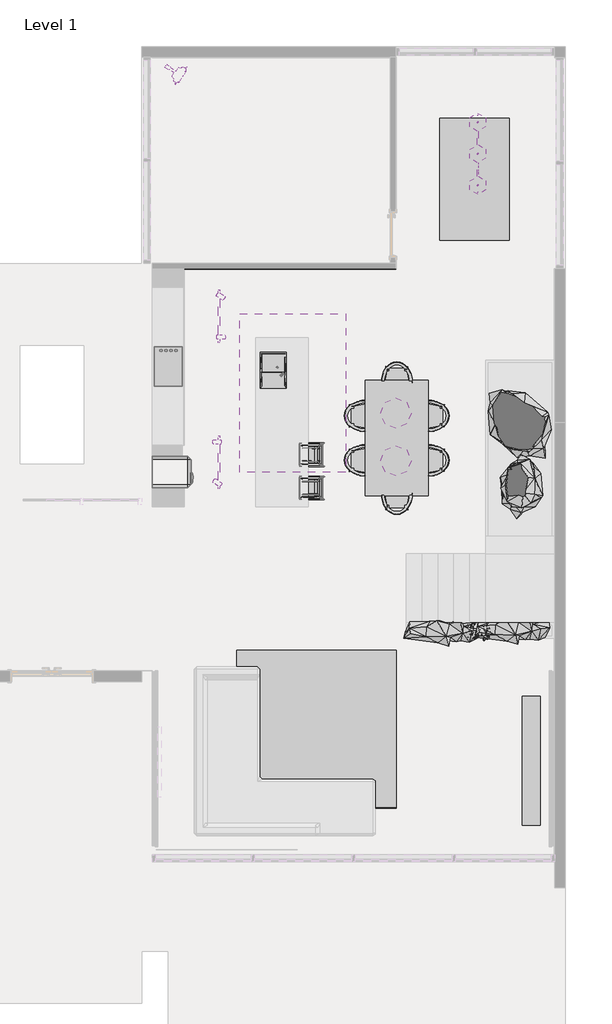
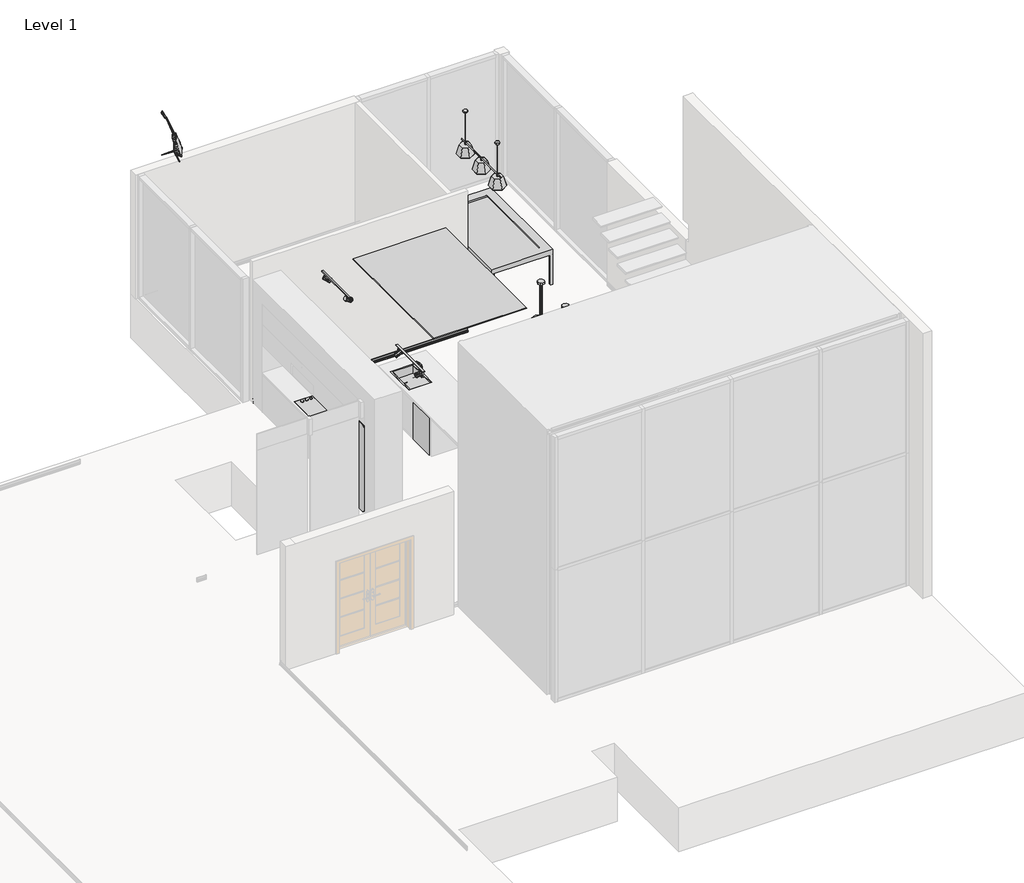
# One storey, part 6 of 6: 34 geographic elements, 1 proxy.
"""IFC4 building model written with IfcOpenShell, lengths in millimetres."""

from ifc_helpers import new_model, si_unit, frame, origin, place, context, project, spatial, polyline, circle_curve, ellipse_curve, transform, mapped, element, save
from ifc_brep_helpers import plane_surface, cylinder_surface, revolved_surface, advanced_brep
from components import geographic_element_bfdd2f6c, geographic_element_9e3005e0, geographic_element_9168ae05, geographic_element_90b7c5d2, geographic_element_7dfcdec6, geographic_element_61ae229a, geographic_element_0d0d3237, enscape_assetdefinition_ceiling_lamp_004_enscape_05cd2c64, enscape_assetdefinition_chair_012_enscape_assetdefinition_f9da785b, enscape_assetdefinition_chair_012_enscape_assetdefinition_a687204f, enscape_assetdefinition_cooktop_001_enscape_assetdefinition_00335e73, enscape_assetdefinition_dishwasher_001_enscape_95202793, enscape_assetdefinition_faucet_003_kitchen_enscape_26e6365f, enscape_assetdefinition_high_stool_001_enscape_ac28e651, enscape_assetdefinition_high_stool_001_enscape_cfc41f77, enscape_assetdefinition_pendant_lamp_004_enscape_82bf42aa, enscape_assetdefinition_pendant_lamp_007_enscape_ddbe99dc, enscape_assetdefinition_refrigerator_005_enscape_24c0ebcb, enscape_assetdefinition_rug_008_enscape_assetdefinition_rug_9687f430, enscape_assetdefinition_rug_019_enscape_assetdefinition_rug_03579923, enscape_assetdefinition_sideboard_030_enscape_9a6f2bb5, enscape_assetdefinition_sink_001_enscape_assetdefinition_419a9225, enscape_assetdefinition_table_008_enscape_assetdefinition_f2bec403

model = new_model("IFC4")

# Units and contexts
model_context = context("Model", 3, world=origin())
ifc_project = project(units=[si_unit("LENGTHUNIT", "METRE", prefix="MILLI")], contexts=[model_context])

# Site, building, storey
site = spatial("IfcSite", under=ifc_project)
building = spatial("IfcBuilding", under=site)
storey = spatial("IfcBuildingStorey", under=building, Name="Level 1", Elevation=1000.0)

# Proxy
placement = place(None, origin())
element("IfcBuildingElementProxy", 1, Name="Brick Soldier Course", ObjectType="Brick Soldier Course", at=placement, inside=storey, context=model_context, shape_type="AdvancedBrep", body=[
    advanced_brep(
    [(16943.1337784, 13066.9206658, 1100.0), (16943.1337784, 13066.9206658, 1000.0), (16943.1337784, 13053.7928378, 1000.0), (16943.1337784, 13059.2884138, 1016.7363778), (16943.1337784, 13060.6531616, 1017.9313406), (16943.1337784, 13061.9206658, 1017.9313406), (16943.1337784, 13061.9206658, 1025.0), (16943.1337784, 13060.8836184, 1025.0), (16943.1337784, 13059.4323924, 1026.451226), (16943.1337784, 13059.4323924, 1048.5), (16943.1337784, 13060.9323924, 1050.0), (16943.1337784, 13064.4323924, 1050.0), (16943.1337784, 13064.4323924, 1090.0), (16943.1337784, 13063.3572238, 1090.0), (16943.1337784, 13061.9206658, 1091.4365579), (16943.1337784, 13061.9206658, 1095.9967275), (16943.1337784, 13065.9239384, 1100.0), (21543.1337784, 13066.9206658, 1100.0), (21544.1305058, 13065.9239384, 1100.0), (21548.1337784, 13061.9206658, 1095.9967275), (21548.1337784, 13061.9206658, 1091.4365579), (21546.6972204, 13063.3572238, 1090.0), (21545.6220518, 13064.4323924, 1090.0), (21545.6220518, 13064.4323924, 1050.0), (21549.1220518, 13060.9323924, 1050.0), (21550.6220518, 13059.4323924, 1048.5), (21550.6220518, 13059.4323924, 1026.451226), (21549.1708258, 13060.8836184, 1025.0), (21548.1337784, 13061.9206658, 1025.0), (21548.1337784, 13061.9206658, 1017.9313406), (21549.4012827, 13060.6531616, 1017.9313406), (21550.7660304, 13059.2884138, 1016.7363778), (21556.2616065, 13053.7928378, 1000.0), (21543.1337784, 13066.9206658, 1000.0)],
    [
        (0, 1),
        (1, 2),
        (2, 3, circle_curve(frame((16943.1337784, 13011.7757488, 1023.0672348), z_axis=(1.0, 0.0, 0.0), x_axis=(0.0, -1.0, 0.0)), 47.932589)),
        (3, 4, circle_curve(frame((16943.1337784, 13060.6531616, 1016.554531), z_axis=(-1.0, 0.0, 0.0), x_axis=(0.0, -1.0, 0.0)), 1.3768096)),
        (4, 5),
        (5, 6),
        (6, 7),
        (7, 8, circle_curve(frame((16943.1337784, 13060.8836184, 1026.451226), z_axis=(-1.0, 0.0, 0.0), x_axis=(0.0, -1.0, 0.0)), 1.451226)),
        (8, 9),
        (9, 10, circle_curve(frame((16943.1337784, 13060.9323924, 1048.5), z_axis=(-1.0, 0.0, 0.0), x_axis=(0.0, -1.0, 0.0)), 1.5)),
        (10, 11),
        (11, 12),
        (12, 13),
        (13, 14, circle_curve(frame((16943.1337784, 13063.3572238, 1091.4365579), z_axis=(-1.0, 0.0, 0.0), x_axis=(0.0, -1.0, 0.0)), 1.4365579)),
        (14, 15),
        (15, 16, circle_curve(frame((16943.1337784, 13065.9239384, 1095.9967275), z_axis=(-1.0, 0.0, 0.0), x_axis=(0.0, -1.0, 0.0)), 4.0032725)),
        (16, 0),
        (17, 18),
        (18, 19, ellipse_curve(frame((21544.1305058, 13065.9239384, 1095.9967275), z_axis=(0.707106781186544, 0.7071067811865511, 0.0), x_axis=(-0.7071067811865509, 0.7071067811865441, 0.0)), 5.6614823, 4.0032725)),
        (19, 20),
        (20, 21, ellipse_curve(frame((21546.6972204, 13063.3572238, 1091.4365579), z_axis=(0.707106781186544, 0.7071067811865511, 0.0), x_axis=(-0.7071067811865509, 0.7071067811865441, 0.0)), 2.0315997, 1.4365579)),
        (21, 22),
        (22, 23),
        (23, 24),
        (24, 25, ellipse_curve(frame((21549.1220518, 13060.9323924, 1048.5), z_axis=(0.707106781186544, 0.7071067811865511, 0.0), x_axis=(-0.7071067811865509, 0.7071067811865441, 0.0)), 2.1213203, 1.5)),
        (25, 26),
        (26, 27, ellipse_curve(frame((21549.1708258, 13060.8836184, 1026.451226), z_axis=(0.707106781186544, 0.7071067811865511, 0.0), x_axis=(-0.7071067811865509, 0.7071067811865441, 0.0)), 2.0523435, 1.451226)),
        (27, 28),
        (28, 29),
        (29, 30),
        (30, 31, ellipse_curve(frame((21549.4012827, 13060.6531616, 1016.554531), z_axis=(0.707106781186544, 0.7071067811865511, 0.0), x_axis=(-0.7071067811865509, 0.7071067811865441, 0.0)), 1.9471028, 1.3768096)),
        (31, 32, ellipse_curve(frame((21598.2786954, 13011.7757488, 1023.0672348), z_axis=(-0.707106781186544, -0.7071067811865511, 0.0), x_axis=(0.7071067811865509, -0.7071067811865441, 0.0)), 67.7869174, 47.932589)),
        (32, 33),
        (33, 17),
        (0, 17),
        (33, 1),
        (32, 2),
        (31, 3),
        (30, 4),
        (29, 5),
        (28, 6),
        (27, 7),
        (26, 8),
        (25, 9),
        (24, 10),
        (23, 11),
        (22, 12),
        (21, 13),
        (20, 14),
        (19, 15),
        (18, 16),
    ],
    [
        plane_surface(frame((16943.1337784, 13066.9206658, 899.9950328), z_axis=(-1.0, 0.0, 0.0), x_axis=(0.0, 1.0, 0.0))),
        plane_surface(frame((21543.1337784, 13066.9206658, 695.2), z_axis=(0.707106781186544, 0.7071067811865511, 0.0), x_axis=(-0.7071067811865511, 0.707106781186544, 0.0))),
        plane_surface(frame((16943.1337784, 13066.9206658, 1100.0), z_axis=(0.0, 1.0, 0.0), x_axis=(1.0, 0.0, 0.0))),
        plane_surface(frame((16943.1337784, 13066.9206658, 1000.0), z_axis=(0.0, 0.0, -1.0), x_axis=(1.0, 0.0, 0.0))),
        revolved_surface(polyline([(21646.211284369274, 12963.8431598, 1023.0672348), (16943.1337784, 12963.8431598, 1023.0672348)]), (16943.1337784, 13011.7757488, 1023.0672348), (1.0, 0.0, 0.0)),
        cylinder_surface(frame((16943.1337784, 13060.6531616, 1016.554531), z_axis=(-1.0, 0.0, 0.0), x_axis=(0.0, -1.0, 0.0)), 1.3768096),
        plane_surface(frame((16943.1337784, 13060.6531616, 1017.9313406), z_axis=(0.0, 0.0, 1.0), x_axis=(1.0, 0.0, 0.0))),
        plane_surface(frame((16943.1337784, 13061.9206658, 1017.9313406), z_axis=(0.0, -1.0, 0.0), x_axis=(1.0, 0.0, 0.0))),
        plane_surface(frame((16943.1337784, 13061.9206658, 1025.0), z_axis=(0.0, 0.0, -1.0), x_axis=(1.0, 0.0, 0.0))),
        cylinder_surface(frame((16943.1337784, 13060.8836184, 1026.451226), z_axis=(-1.0, 0.0, 0.0), x_axis=(0.0, -1.0, 0.0)), 1.451226),
        plane_surface(frame((16943.1337784, 13059.4323924, 1026.451226), z_axis=(0.0, -1.0, 0.0), x_axis=(1.0, 0.0, 0.0))),
        cylinder_surface(frame((16943.1337784, 13060.9323924, 1048.5), z_axis=(-1.0, 0.0, 0.0), x_axis=(0.0, -1.0, 0.0)), 1.5),
        plane_surface(frame((16943.1337784, 13060.9323924, 1050.0), z_axis=(0.0, 0.0, 1.0), x_axis=(1.0, 0.0, 0.0))),
        plane_surface(frame((16943.1337784, 13064.4323924, 1050.0), z_axis=(0.0, -1.0, 0.0), x_axis=(1.0, 0.0, 0.0))),
        plane_surface(frame((16943.1337784, 13064.4323924, 1090.0), z_axis=(0.0, 0.0, -1.0), x_axis=(1.0, 0.0, 0.0))),
        cylinder_surface(frame((16943.1337784, 13063.3572238, 1091.4365579), z_axis=(-1.0, 0.0, 0.0), x_axis=(0.0, -1.0, 0.0)), 1.4365579),
        plane_surface(frame((16943.1337784, 13061.9206658, 1091.4365579), z_axis=(0.0, -1.0, 0.0), x_axis=(1.0, 0.0, 0.0))),
        cylinder_surface(frame((16943.1337784, 13065.9239384, 1095.9967275), z_axis=(-1.0, 0.0, 0.0), x_axis=(0.0, -1.0, 0.0)), 4.0032725),
        plane_surface(frame((16943.1337784, 13065.9239384, 1100.0), z_axis=(0.0, 0.0, 1.0), x_axis=(1.0, 0.0, 0.0))),
    ],
    [
        (0, [[1, 2, 3, 4, 5, 6, 7, 8, 9, 10, 11, 12, 13, 14, 15, 16, 17]]),
        (1, [[18, 19, 20, 21, 22, 23, 24, 25, 26, 27, 28, 29, 30, 31, 32, 33, 34]]),
        (2, [[-1, 35, -34, 36]]),
        (3, [[-2, -36, -33, 37]]),
        (4, [[-3, -37, -32, 38]]),
        (5, [[-4, -38, -31, 39]]),
        (6, [[-5, -39, -30, 40]]),
        (7, [[-6, -40, -29, 41]]),
        (8, [[-7, -41, -28, 42]]),
        (9, [[-8, -42, -27, 43]]),
        (10, [[-9, -43, -26, 44]]),
        (11, [[-10, -44, -25, 45]]),
        (12, [[-11, -45, -24, 46]]),
        (13, [[-12, -46, -23, 47]]),
        (14, [[-13, -47, -22, 48]]),
        (15, [[-14, -48, -21, 49]]),
        (16, [[-15, -49, -20, 50]]),
        (17, [[-16, -50, -19, 51]]),
        (18, [[-17, -51, -18, -35]]),
    ],
),
])

# Geographic elements
geographic_element_shape = geographic_element_bfdd2f6c(model_context)
element("IfcGeographicElement", 2, ObjectType="Enscape AssetDefinition - Billiard Table 002 : Enscape AssetDefinition - Billiard Table 002", at=placement, inside=storey, context=model_context, shape_type="MappedRepresentation", body=[
    mapped(geographic_element_shape, transform((23094.052386, 14666.9206658, 1000.0), x_axis=(0.0, 1.0, 0.0), y_axis=(-1.0, 0.0, 0.0), z_axis=(0.0, 0.0, 1.0))),
])
geographic_element_2_shape = geographic_element_9e3005e0(model_context)
element("IfcGeographicElement", 3, ObjectType="Enscape AssetDefinition - Potted Plant 250 Snake Plant : Enscape AssetDefinition - Potted Plant 250 Snake Plant", at=placement, inside=storey, context=model_context, shape_type="MappedRepresentation", body=[
    mapped(geographic_element_2_shape, transform((23713.1337784, 6247.8321125, 1140.0), x_axis=(0.0, -1.0, 0.0), y_axis=(1.0, 0.0, 0.0), z_axis=(0.0, 0.0, 1.0))),
])
element("IfcGeographicElement", 4, ObjectType="Enscape AssetDefinition - Potted Plant 250 Snake Plant : Enscape AssetDefinition - Potted Plant 250 Snake Plant", at=placement, inside=storey, context=model_context, shape_type="MappedRepresentation", body=[
    mapped(geographic_element_2_shape, transform((22408.1337784, 6212.8321125, 1140.0), x_axis=(0.0, -1.0, 0.0), y_axis=(1.0, 0.0, 0.0), z_axis=(0.0, 0.0, 1.0))),
])
geographic_element_3_shape = geographic_element_9168ae05(model_context)
element("IfcGeographicElement", 5, ObjectType="Enscape AssetDefinition - Potted Plant 247 Snake Plant : Enscape AssetDefinition - Potted Plant 247 Snake Plant", at=placement, inside=storey, context=model_context, shape_type="MappedRepresentation", body=[
    mapped(geographic_element_3_shape, transform((23212.2914143, 6258.4455794, 1140.0), x_axis=(1.0, 0.0, 0.0), y_axis=(0.0, 1.0, 0.0), z_axis=(0.0, 0.0, 1.0))),
])
element("IfcGeographicElement", 6, ObjectType="Enscape AssetDefinition - Potted Plant 247 Snake Plant : Enscape AssetDefinition - Potted Plant 247 Snake Plant", at=placement, inside=storey, context=model_context, shape_type="MappedRepresentation", body=[
    mapped(geographic_element_3_shape, transform((22943.1337784, 6189.5672652, 1140.0), x_axis=(1.0, 0.0, 0.0), y_axis=(0.0, 1.0, 0.0), z_axis=(0.0, 0.0, 1.0))),
])
element("IfcGeographicElement", 7, ObjectType="Enscape AssetDefinition - Potted Plant 247 Snake Plant : Enscape AssetDefinition - Potted Plant 247 Snake Plant", at=placement, inside=storey, context=model_context, shape_type="MappedRepresentation", body=[
    mapped(geographic_element_3_shape, transform((23065.8445874, 6167.2496243, 1140.0), x_axis=(1.0, 0.0, 0.0), y_axis=(0.0, 1.0, 0.0), z_axis=(0.0, 0.0, 1.0))),
])
element("IfcGeographicElement", 8, ObjectType="Enscape AssetDefinition - Potted Plant 247 Snake Plant : Enscape AssetDefinition - Potted Plant 247 Snake Plant", at=placement, inside=storey, context=model_context, shape_type="MappedRepresentation", body=[
    mapped(geographic_element_3_shape, transform((22966.7965398, 6302.4533857, 1140.0), x_axis=(1.0, 0.0, 0.0), y_axis=(0.0, 1.0, 0.0), z_axis=(0.0, 0.0, 1.0))),
])
element("IfcGeographicElement", 9, ObjectType="Enscape AssetDefinition - Potted Plant 247 Snake Plant : Enscape AssetDefinition - Potted Plant 247 Snake Plant", at=placement, inside=storey, context=model_context, shape_type="MappedRepresentation", body=[
    mapped(geographic_element_3_shape, transform((23272.0548418, 6301.09339, 1140.0), x_axis=(1.0, 0.0, 0.0), y_axis=(0.0, 1.0, 0.0), z_axis=(0.0, 0.0, 1.0))),
])
geographic_element_4_shape = geographic_element_90b7c5d2(model_context)
element("IfcGeographicElement", 10, ObjectType="Enscape AssetDefinition - Potted Plant 247 Snake Plant : Enscape AssetDefinition - Potted Plant 247 Snake Plant 2", at=placement, inside=storey, context=model_context, shape_type="MappedRepresentation", body=[
    mapped(geographic_element_4_shape, transform((23253.1337784, 6154.720421, 1140.0), x_axis=(1.0, 0.0, 0.0), y_axis=(0.0, 1.0, 0.0), z_axis=(0.0, 0.0, 1.0))),
])
geographic_element_5_shape = geographic_element_7dfcdec6(model_context)
element("IfcGeographicElement", 11, ObjectType="Enscape AssetDefinition - Potted Plant 217 Dumb Cane : Enscape AssetDefinition - Potted Plant 217 Dumb Cane 2", at=placement, inside=storey, context=model_context, shape_type="MappedRepresentation", body=[
    mapped(geographic_element_5_shape, transform((23856.9536171, 9024.0661412, 1140.0), x_axis=(1.0, 0.0, 0.0), y_axis=(0.0, 1.0, 0.0), z_axis=(0.0, 0.0, 1.0))),
])
geographic_element_6_shape = geographic_element_61ae229a(model_context)
element("IfcGeographicElement", 12, ObjectType="Enscape AssetDefinition - Potted Plant 217 Dumb Cane : Enscape AssetDefinition - Potted Plant 217 Dumb Cane 3", at=placement, inside=storey, context=model_context, shape_type="MappedRepresentation", body=[
    mapped(geographic_element_6_shape, transform((23751.7140303, 10154.1805742, 1140.0), x_axis=(0.707106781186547, 0.7071067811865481, 0.0), y_axis=(-0.7071067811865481, 0.707106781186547, 0.0), z_axis=(0.0, 0.0, 1.0))),
])
geographic_element_7_shape = geographic_element_0d0d3237(model_context)
element("IfcGeographicElement", 13, ObjectType="Enscape AssetDefinition - Instrument 016 Guitar : Enscape AssetDefinition - Instrument 016 Guitar", at=placement, inside=storey, context=model_context, shape_type="MappedRepresentation", body=[
    mapped(geographic_element_7_shape, transform((17390.7159822, 16774.461005, 4200.0), x_axis=(0.5375436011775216, 0.843235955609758, 0.0), y_axis=(-0.843235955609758, 0.5375436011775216, 0.0), z_axis=(0.0, 0.0, 1.0))),
])
enscape_assetdefinition_ceiling_lamp_004_enscape_shape = enscape_assetdefinition_ceiling_lamp_004_enscape_05cd2c64(model_context)
element("IfcGeographicElement", 14, ObjectType="Enscape AssetDefinition - Ceiling Lamp 004 : Enscape AssetDefinition - Ceiling Lamp 004", at=placement, inside=storey, context=model_context, shape_type="MappedRepresentation", body=[
    mapped(enscape_assetdefinition_ceiling_lamp_004_enscape_shape, transform((18203.1337784, 9406.4728324, 3800.0), x_axis=(0.0, 1.0, 0.0), y_axis=(-1.0, 0.0, 0.0), z_axis=(0.0, 0.0, 1.0))),
])
element("IfcGeographicElement", 15, ObjectType="Enscape AssetDefinition - Ceiling Lamp 004 : Enscape AssetDefinition - Ceiling Lamp 004", at=placement, inside=storey, context=model_context, shape_type="MappedRepresentation", body=[
    mapped(enscape_assetdefinition_ceiling_lamp_004_enscape_shape, transform((18203.1337784, 12166.4728324, 3800.0), x_axis=(0.0, -1.0, 0.0), y_axis=(1.0, 0.0, 0.0), z_axis=(0.0, 0.0, 1.0))),
])
enscape_assetdefinition_chair_012_enscape_assetdefinition_shape = enscape_assetdefinition_chair_012_enscape_assetdefinition_f9da785b(model_context)
element("IfcGeographicElement", 16, ObjectType="Enscape AssetDefinition - Chair 012 : Enscape AssetDefinition - Chair 012", at=placement, inside=storey, context=model_context, shape_type="MappedRepresentation", body=[
    mapped(enscape_assetdefinition_chair_012_enscape_assetdefinition_shape, transform((21563.1337784, 10958.9947045, 1000.0), x_axis=(1.0, 0.0, 0.0), y_axis=(0.0, 1.0, 0.0), z_axis=(0.0, 0.0, 1.0))),
])
element("IfcGeographicElement", 17, ObjectType="Enscape AssetDefinition - Chair 012 : Enscape AssetDefinition - Chair 012", at=placement, inside=storey, context=model_context, shape_type="MappedRepresentation", body=[
    mapped(enscape_assetdefinition_chair_012_enscape_assetdefinition_shape, transform((22203.1337784, 9446.9206658, 1000.0), x_axis=(0.0, -1.0, 0.0), y_axis=(1.0, 0.0, 0.0), z_axis=(0.0, 0.0, 1.0))),
])
element("IfcGeographicElement", 18, ObjectType="Enscape AssetDefinition - Chair 012 : Enscape AssetDefinition - Chair 012", at=placement, inside=storey, context=model_context, shape_type="MappedRepresentation", body=[
    mapped(enscape_assetdefinition_chair_012_enscape_assetdefinition_shape, transform((20923.1337784, 10286.9206658, 1000.0), x_axis=(0.0, 1.0, 0.0), y_axis=(-1.0, 0.0, 0.0), z_axis=(0.0, 0.0, 1.0))),
])
enscape_assetdefinition_chair_012_enscape_assetdefinition_2_shape = enscape_assetdefinition_chair_012_enscape_assetdefinition_a687204f(model_context)
element("IfcGeographicElement", 19, ObjectType="Enscape AssetDefinition - Chair 012 : Enscape AssetDefinition - Chair 012", at=placement, inside=storey, context=model_context, shape_type="MappedRepresentation", body=[
    mapped(enscape_assetdefinition_chair_012_enscape_assetdefinition_2_shape, transform((21563.1337784, 8774.8466271, 1000.0), x_axis=(1.0, 0.0, 0.0), y_axis=(0.0, 1.0, 0.0), z_axis=(0.0, 0.0, 1.0))),
])
element("IfcGeographicElement", 20, ObjectType="Enscape AssetDefinition - Chair 012 : Enscape AssetDefinition - Chair 012", at=placement, inside=storey, context=model_context, shape_type="MappedRepresentation", body=[
    mapped(enscape_assetdefinition_chair_012_enscape_assetdefinition_2_shape, transform((22203.1337784, 10286.9206658, 1000.0), x_axis=(0.0, 1.0, 0.0), y_axis=(-1.0, 0.0, 0.0), z_axis=(0.0, 0.0, 1.0))),
])
element("IfcGeographicElement", 21, ObjectType="Enscape AssetDefinition - Chair 012 : Enscape AssetDefinition - Chair 012", at=placement, inside=storey, context=model_context, shape_type="MappedRepresentation", body=[
    mapped(enscape_assetdefinition_chair_012_enscape_assetdefinition_2_shape, transform((20923.1337784, 9446.9206658, 1000.0), x_axis=(0.0, -1.0, 0.0), y_axis=(1.0, 0.0, 0.0), z_axis=(0.0, 0.0, 1.0))),
])
enscape_assetdefinition_cooktop_001_enscape_assetdefinition_shape = enscape_assetdefinition_cooktop_001_enscape_assetdefinition_00335e73(model_context)
element("IfcGeographicElement", 22, ObjectType="Enscape AssetDefinition - Cooktop 001 : Enscape AssetDefinition - Cooktop 001", at=placement, inside=storey, context=model_context, shape_type="MappedRepresentation", body=[
    mapped(enscape_assetdefinition_cooktop_001_enscape_assetdefinition_shape, transform((17243.5173578, 11222.1706699, 1900.0), x_axis=(0.0, 1.0, 0.0), y_axis=(-1.0, 0.0, 0.0), z_axis=(0.0, 0.0, 1.0))),
])
enscape_assetdefinition_dishwasher_001_enscape_shape = enscape_assetdefinition_dishwasher_001_enscape_95202793(model_context)
element("IfcGeographicElement", 23, ObjectType="Enscape AssetDefinition - Dishwasher 001 : Enscape AssetDefinition - Dishwasher 001", at=placement, inside=storey, context=model_context, shape_type="MappedRepresentation", body=[
    mapped(enscape_assetdefinition_dishwasher_001_enscape_shape, transform((19218.1337784, 10566.9206658, 1000.0), x_axis=(1.0, 0.0, 0.0), y_axis=(0.0, 1.0, 0.0), z_axis=(0.0, 0.0, 1.0))),
])
enscape_assetdefinition_faucet_003_kitchen_enscape_shape = enscape_assetdefinition_faucet_003_kitchen_enscape_26e6365f(model_context)
element("IfcGeographicElement", 24, ObjectType="Enscape AssetDefinition - Faucet 003 Kitchen : Enscape AssetDefinition - Faucet 003 Kitchen", at=placement, inside=storey, context=model_context, shape_type="MappedRepresentation", body=[
    mapped(enscape_assetdefinition_faucet_003_kitchen_enscape_shape, transform((19410.2390501, 11077.9307867, 1950.0), x_axis=(-0.7660444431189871, -0.6427876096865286, 0.0), y_axis=(0.6427876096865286, -0.7660444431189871, 0.0), z_axis=(0.0, 0.0, 1.0))),
])
enscape_assetdefinition_high_stool_001_enscape_shape = enscape_assetdefinition_high_stool_001_enscape_ac28e651(model_context)
element("IfcGeographicElement", 25, ObjectType="Enscape AssetDefinition - High Stool 001 : Enscape AssetDefinition - High Stool 001", at=placement, inside=storey, context=model_context, shape_type="MappedRepresentation", body=[
    mapped(enscape_assetdefinition_high_stool_001_enscape_shape, transform((19943.1337784, 8926.9206658, 1000.0), x_axis=(-1.0, 0.0, 0.0), y_axis=(0.0, -1.0, 0.0), z_axis=(0.0, 0.0, 1.0))),
])
enscape_assetdefinition_high_stool_001_enscape_2_shape = enscape_assetdefinition_high_stool_001_enscape_cfc41f77(model_context)
element("IfcGeographicElement", 26, ObjectType="Enscape AssetDefinition - High Stool 001 : Enscape AssetDefinition - High Stool 001", at=placement, inside=storey, context=model_context, shape_type="MappedRepresentation", body=[
    mapped(enscape_assetdefinition_high_stool_001_enscape_2_shape, transform((19943.1337784, 9552.9902081, 1000.0), x_axis=(-1.0, 0.0, 0.0), y_axis=(0.0, -1.0, 0.0), z_axis=(0.0, 0.0, 1.0))),
])
enscape_assetdefinition_pendant_lamp_004_enscape_shape = enscape_assetdefinition_pendant_lamp_004_enscape_82bf42aa(model_context)
element("IfcGeographicElement", 27, ObjectType="Enscape AssetDefinition - Pendant Lamp 004 : Enscape AssetDefinition - Pendant Lamp 004", at=placement, inside=storey, context=model_context, shape_type="MappedRepresentation", body=[
    mapped(enscape_assetdefinition_pendant_lamp_004_enscape_shape, transform((21544.0837784, 9438.857391, 3800.0), x_axis=(1.0, 0.0, 0.0), y_axis=(0.0, 1.0, 0.0), z_axis=(0.0, 0.0, 1.0))),
])
element("IfcGeographicElement", 28, ObjectType="Enscape AssetDefinition - Pendant Lamp 004 : Enscape AssetDefinition - Pendant Lamp 004", at=placement, inside=storey, context=model_context, shape_type="MappedRepresentation", body=[
    mapped(enscape_assetdefinition_pendant_lamp_004_enscape_shape, transform((21544.0837784, 10338.857391, 3800.0), x_axis=(1.0, 0.0, 0.0), y_axis=(0.0, 1.0, 0.0), z_axis=(0.0, 0.0, 1.0))),
])
enscape_assetdefinition_pendant_lamp_007_enscape_shape = enscape_assetdefinition_pendant_lamp_007_enscape_ddbe99dc(model_context)
element("IfcGeographicElement", 29, ObjectType="Enscape AssetDefinition - Pendant Lamp 007 : Enscape AssetDefinition - Pendant Lamp 007", at=placement, inside=storey, context=model_context, shape_type="MappedRepresentation", body=[
    mapped(enscape_assetdefinition_pendant_lamp_007_enscape_shape, transform((23094.052386, 15240.8320087, 3800.0), x_axis=(0.0, 1.0, 0.0), y_axis=(-1.0, 0.0, 0.0), z_axis=(0.0, 0.0, 1.0))),
])
enscape_assetdefinition_refrigerator_005_enscape_shape = enscape_assetdefinition_refrigerator_005_enscape_24c0ebcb(model_context)
element("IfcGeographicElement", 30, ObjectType="Enscape AssetDefinition - Refrigerator 005 : Enscape AssetDefinition - Refrigerator 005", at=placement, inside=storey, context=model_context, shape_type="MappedRepresentation", body=[
    mapped(enscape_assetdefinition_refrigerator_005_enscape_shape, transform((16943.1337784, 9226.9206658, 1000.0), x_axis=(0.0, 1.0, 0.0), y_axis=(-1.0, 0.0, 0.0), z_axis=(0.0, 0.0, 1.0))),
])
enscape_assetdefinition_rug_008_enscape_assetdefinition_rug_shape = enscape_assetdefinition_rug_008_enscape_assetdefinition_rug_9687f430(model_context)
element("IfcGeographicElement", 31, ObjectType="Enscape AssetDefinition - Rug 008 : Enscape AssetDefinition - Rug 008", at=placement, inside=storey, context=model_context, shape_type="MappedRepresentation", body=[
    mapped(enscape_assetdefinition_rug_008_enscape_assetdefinition_rug_shape, transform((19593.1337784, 10716.9206658, 4200.0), x_axis=(1.0, 0.0, 0.0), y_axis=(0.0, 1.0, 0.0), z_axis=(0.0, 0.0, 1.0))),
])
enscape_assetdefinition_rug_019_enscape_assetdefinition_rug_shape = enscape_assetdefinition_rug_019_enscape_assetdefinition_rug_03579923(model_context)
element("IfcGeographicElement", 32, ObjectType="Enscape AssetDefinition - Rug 019 : Enscape AssetDefinition - Rug 019", at=placement, inside=storey, context=model_context, shape_type="MappedRepresentation", body=[
    mapped(enscape_assetdefinition_rug_019_enscape_assetdefinition_rug_shape, transform((20043.1337784, 4366.9206658, 1000.0), x_axis=(1.0, 0.0, 0.0), y_axis=(0.0, 1.0, 0.0), z_axis=(0.0, 0.0, 1.0))),
])
enscape_assetdefinition_sideboard_030_enscape_shape = enscape_assetdefinition_sideboard_030_enscape_9a6f2bb5(model_context)
element("IfcGeographicElement", 33, ObjectType="Enscape AssetDefinition - Sideboard 030 : Enscape AssetDefinition - Sideboard 030", at=placement, inside=storey, context=model_context, shape_type="MappedRepresentation", body=[
    mapped(enscape_assetdefinition_sideboard_030_enscape_shape, transform((24103.1337784, 3767.8321125, 1000.0), x_axis=(0.0, -1.0, 0.0), y_axis=(1.0, 0.0, 0.0), z_axis=(0.0, 0.0, 1.0))),
])
enscape_assetdefinition_sink_001_enscape_assetdefinition_shape = enscape_assetdefinition_sink_001_enscape_assetdefinition_419a9225(model_context)
element("IfcGeographicElement", 34, ObjectType="Enscape AssetDefinition - Sink 001 : Enscape AssetDefinition - Sink 001", at=placement, inside=storey, context=model_context, shape_type="MappedRepresentation", body=[
    mapped(enscape_assetdefinition_sink_001_enscape_assetdefinition_shape, transform((19226.9937279, 11148.8860416, 1950.0), x_axis=(0.0, 1.0, 0.0), y_axis=(-1.0, 0.0, 0.0), z_axis=(0.0, 0.0, 1.0))),
])
enscape_assetdefinition_table_008_enscape_assetdefinition_shape = enscape_assetdefinition_table_008_enscape_assetdefinition_f2bec403(model_context)
element("IfcGeographicElement", 35, ObjectType="Enscape AssetDefinition - Table 008 : Enscape AssetDefinition - Table 008", at=placement, inside=storey, context=model_context, shape_type="MappedRepresentation", body=[
    mapped(enscape_assetdefinition_table_008_enscape_assetdefinition_shape, transform((21563.1337784, 9866.9206658, 1000.0), x_axis=(0.0, 1.0, 0.0), y_axis=(-1.0, 0.0, 0.0), z_axis=(0.0, 0.0, 1.0))),
])

save(model, "model.ifc")
